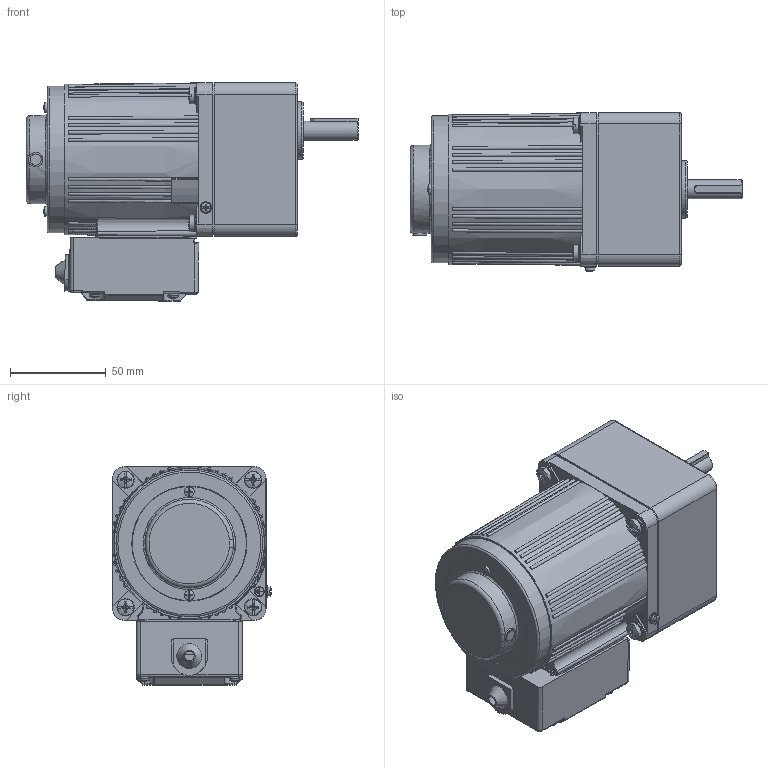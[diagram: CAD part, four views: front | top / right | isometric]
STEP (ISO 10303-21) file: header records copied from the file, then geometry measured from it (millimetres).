
FILE_DESCRIPTION(/* description */ (''),/* implementation_level */ '2;1');
FILE_NAME(/* name */ '4RK25-40RGNC·T-4GN25-750K-C·10L长款接线盒.stp',/* time_stamp */ '2025-04-13T15:40:34+08:00',/* author */ (''),/* organization */ (''),/* preprocessor_version */ 'ST-DEVELOPER v18.102',/* originating_system */ 'SIEMENS PLM Software NX 2027',/* authorisation */ '');
FILE_SCHEMA (('AP203_CONFIGURATION_CONTROLLED_3D_DESIGN_OF_MECHANICAL_PARTS_AND_ASSEMBLIES_MIM_LF { 1 0 10303 403 2 1 2}'));
Products named in the file (1): 4RK25-40CC·R-4GN25-750K-C·10L_stp_objects
Bounding box: 173 x 82.78 x 113.83 mm (x, y, z)
Volume: 772887.1 mm3; surface area: 117392.6 mm2
Topology: 8 solids, 8 shells, 1511 faces, 3981 edges, 2555 vertices
Faces by surface type: plane 614, cylinder 388, bspline 284, torus 99, cone 88, sphere 38
Full cylindrical faces by diameter (mm): 2.2 x2, 2.6 x1, 2.7 x1, 2.9 x4, 3.2 x1, 3.5 x2, 4 x5, 4.2 x9, 4.4 x1, 4.6 x4, 4.8 x1, 5 x5, 5.1 x3, 5.3 x4, 5.6 x4, 5.8 x1, 6 x7, 6.5 x4, 7 x1, 7.4 x1, 8 x1, 8.2 x1, 8.5 x4, 9 x4, 10 x3, 10.5 x1, 19 x1, 26 x1, 30 x1, 46 x1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
Entity records: 53102 total; most frequent: CARTESIAN_POINT 19221, ORIENTED_EDGE 7424, DIRECTION 6005, EDGE_CURVE 3712, VERTEX_POINT 2467, AXIS2_PLACEMENT_3D 2302, EDGE_LOOP 1798, ADVANCED_FACE 1509
